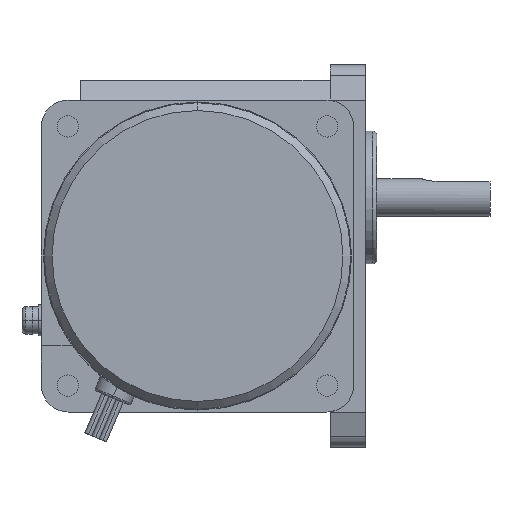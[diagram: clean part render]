
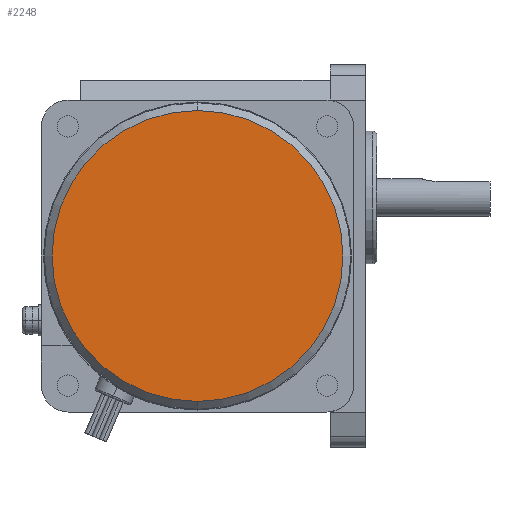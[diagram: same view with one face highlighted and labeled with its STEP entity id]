
A CAD part, left-side view. The second image highlights one B-rep face of the part: STEP entity #2248.
In plain terms, the highlighted planar face has unit normal (-1, 0, 0).
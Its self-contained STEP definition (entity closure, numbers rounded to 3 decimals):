
#2228=CARTESIAN_POINT('POINT23763',(-146.,43.,22.3));
#2229=VERTEX_POINT('VERTEX23763',#2228);
#2230=CARTESIAN_POINT('POINT23764',(-146.,43.,-52.3));
#2231=VERTEX_POINT('VERTEX23764',#2230);
#2232=CARTESIAN_POINT('POS40200',(-146.,43.,-15.));
#2233=DIRECTION('DIR60519',(1.,0.,0.));
#2234=DIRECTION('DIR60520',(0.,0.,1.));
#2235=AXIS2_PLACEMENT_3D('AXIS20320',#2232,#2233,#2234);
#2236=CIRCLE('ELLIPSE9533',#2235,37.3);
#2237=EDGE_CURVE('EDGE36193',#2229,#2231,#2236,.T.);
#2238=ORIENTED_EDGE('COEDGE72375',*,*,#2237,.F.);
#2239=EDGE_CURVE('EDGE36194',#2231,#2229,#2236,.T.);
#2240=ORIENTED_EDGE('COEDGE72376',*,*,#2239,.F.);
#2241=EDGE_LOOP('NONE',(#2238,#2240));
#2242=FACE_BOUND('LOOP1',#2241,.T.);
#2243=CARTESIAN_POINT('POS40201',(-146.,43.,
   3.65));
#2244=DIRECTION('DIR60521',(-1.,0.,0.));
#2245=DIRECTION('DIR60522',(0.,1.,0.));
#2246=AXIS2_PLACEMENT_3D('AXIS20321',#2243,#2244,#2245);
#2247=PLANE('PLANE6527',#2246);
#2248=ADVANCED_FACE('FACE14825',(#2242),#2247,.T.);
